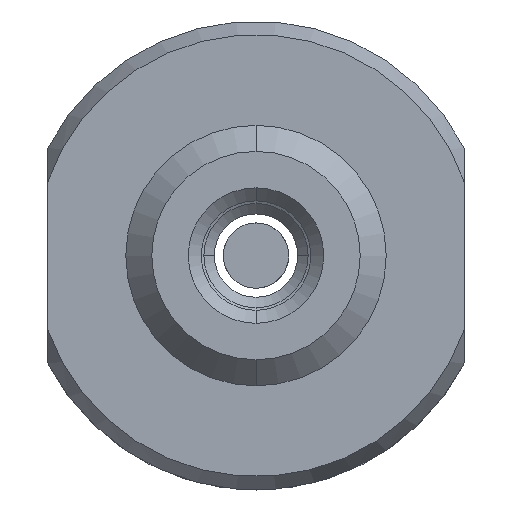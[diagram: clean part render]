
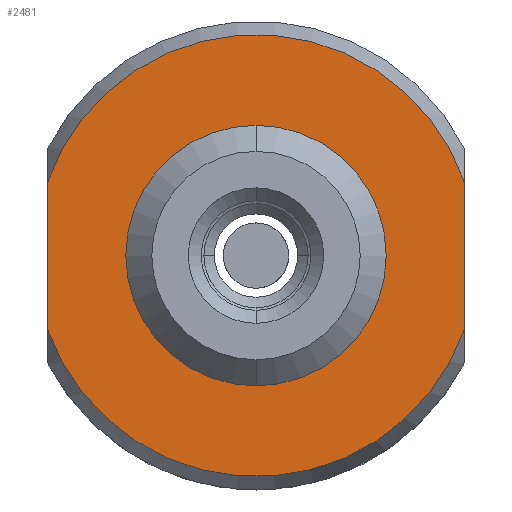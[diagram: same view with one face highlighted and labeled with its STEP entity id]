
A CAD part, front view. The second image highlights one B-rep face of the part: STEP entity #2481.
In plain terms, the highlighted planar face has unit normal (0, -1, 0) as drawn and (0, 1, 0) by its records, which use the part's own axes.
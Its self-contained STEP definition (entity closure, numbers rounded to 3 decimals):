
#20 = FACE_OUTER_BOUND ( 'NONE', #1690, .T. ) ;
#80 = DIRECTION ( 'NONE',  ( 0., 0., 1. ) ) ;
#121 = DIRECTION ( 'NONE',  ( 0., 1., 0. ) ) ;
#127 = CARTESIAN_POINT ( 'NONE',  ( 0., 14.348, -4.25 ) ) ;
#151 = DIRECTION ( 'NONE',  ( 0., 1., 0. ) ) ;
#153 = CARTESIAN_POINT ( 'NONE',  ( 8., 14.348, 11.578 ) ) ;
#395 = ORIENTED_EDGE ( 'NONE', *, *, #1643, .F. ) ;
#413 = CARTESIAN_POINT ( 'NONE',  ( 8., 14.348, 2.825 ) ) ;
#503 = CIRCLE ( 'NONE', #1287, 8.484 ) ;
#522 = DIRECTION ( 'NONE',  ( -1., 0., 0. ) ) ;
#753 = CARTESIAN_POINT ( 'NONE',  ( -8., 14.348, -2.825 ) ) ;
#776 = ORIENTED_EDGE ( 'NONE', *, *, #2431, .F. ) ;
#930 = ORIENTED_EDGE ( 'NONE', *, *, #3105, .T. ) ;
#1019 = CARTESIAN_POINT ( 'NONE',  ( 0., 14.348, 0. ) ) ;
#1139 = DIRECTION ( 'NONE',  ( 0., 1., 0. ) ) ;
#1198 = ORIENTED_EDGE ( 'NONE', *, *, #2190, .F. ) ;
#1248 = VERTEX_POINT ( 'NONE', #413 ) ;
#1287 = AXIS2_PLACEMENT_3D ( 'NONE', #1383, #1139, #2055 ) ;
#1296 = VERTEX_POINT ( 'NONE', #127 ) ;
#1304 = AXIS2_PLACEMENT_3D ( 'NONE', #2003, #1762, #522 ) ;
#1383 = CARTESIAN_POINT ( 'NONE',  ( 0., 14.348, 0. ) ) ;
#1495 = CARTESIAN_POINT ( 'NONE',  ( -8., 14.348, 2.825 ) ) ;
#1586 = CARTESIAN_POINT ( 'NONE',  ( 0., 14.348, 4.25 ) ) ;
#1627 = VERTEX_POINT ( 'NONE', #2556 ) ;
#1643 = EDGE_CURVE ( 'NONE', #2281, #1296, #2256, .T. ) ;
#1685 = DIRECTION ( 'NONE',  ( 0., 0., 1. ) ) ;
#1690 = EDGE_LOOP ( 'NONE', ( #776, #2384, #2675, #930 ) ) ;
#1762 = DIRECTION ( 'NONE',  ( 0., 1., 0. ) ) ;
#1820 = DIRECTION ( 'NONE',  ( 0., 1., 0. ) ) ;
#2003 = CARTESIAN_POINT ( 'NONE',  ( -9., 14.348, 0. ) ) ;
#2009 = CIRCLE ( 'NONE', #2440, 8.484 ) ;
#2018 = CARTESIAN_POINT ( 'NONE',  ( -8., 14.348, 11.578 ) ) ;
#2032 = DIRECTION ( 'NONE',  ( 0., 0., -1. ) ) ;
#2044 = AXIS2_PLACEMENT_3D ( 'NONE', #1019, #1820, #80 ) ;
#2055 = DIRECTION ( 'NONE',  ( -1., 0., 0. ) ) ;
#2127 = VECTOR ( 'NONE', #2032, 1000. ) ;
#2190 = EDGE_CURVE ( 'NONE', #1296, #2281, #2636, .T. ) ;
#2251 = FACE_BOUND ( 'NONE', #2954, .T. ) ;
#2256 = CIRCLE ( 'NONE', #2258, 4.25 ) ;
#2258 = AXIS2_PLACEMENT_3D ( 'NONE', #2863, #151, #1685 ) ;
#2281 = VERTEX_POINT ( 'NONE', #1586 ) ;
#2287 = PLANE ( 'NONE',  #1304 ) ;
#2327 = DIRECTION ( 'NONE',  ( -1., 0., 0. ) ) ;
#2339 = EDGE_CURVE ( 'NONE', #1627, #1248, #2395, .T. ) ;
#2384 = ORIENTED_EDGE ( 'NONE', *, *, #3110, .T. ) ;
#2395 = LINE ( 'NONE', #153, #2511 ) ;
#2431 = EDGE_CURVE ( 'NONE', #2820, #2517, #2523, .T. ) ;
#2440 = AXIS2_PLACEMENT_3D ( 'NONE', #3069, #121, #2327 ) ;
#2481 = ADVANCED_FACE ( 'NONE', ( #2251, #20 ), #2287, .T. ) ;
#2511 = VECTOR ( 'NONE', #2729, 1000. ) ;
#2517 = VERTEX_POINT ( 'NONE', #753 ) ;
#2523 = LINE ( 'NONE', #2018, #2127 ) ;
#2556 = CARTESIAN_POINT ( 'NONE',  ( 8., 14.348, -2.825 ) ) ;
#2636 = CIRCLE ( 'NONE', #2044, 4.25 ) ;
#2675 = ORIENTED_EDGE ( 'NONE', *, *, #2339, .F. ) ;
#2729 = DIRECTION ( 'NONE',  ( 0., 0., 1. ) ) ;
#2820 = VERTEX_POINT ( 'NONE', #1495 ) ;
#2863 = CARTESIAN_POINT ( 'NONE',  ( 0., 14.348, 0. ) ) ;
#2954 = EDGE_LOOP ( 'NONE', ( #395, #1198 ) ) ;
#3069 = CARTESIAN_POINT ( 'NONE',  ( 0., 14.348, 0. ) ) ;
#3105 = EDGE_CURVE ( 'NONE', #1627, #2517, #2009, .T. ) ;
#3110 = EDGE_CURVE ( 'NONE', #2820, #1248, #503, .T. ) ;
